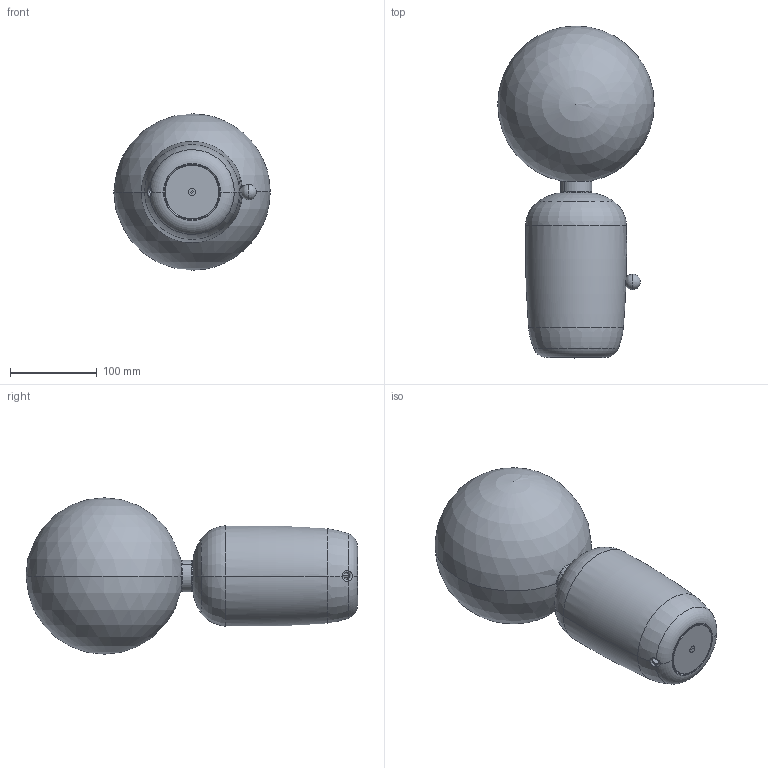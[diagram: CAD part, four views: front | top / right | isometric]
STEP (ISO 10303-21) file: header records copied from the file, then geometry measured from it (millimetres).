
FILE_DESCRIPTION (( 'STEP AP214' ), '1' );
FILE_NAME ('ABALLS M PEQUEÑA.STEP', '2014-08-28T08:55:24', ( '' ), ( '' ), 'SwSTEP 2.0', 'SolidWorks 2010', '' );
FILE_SCHEMA (( 'AUTOMOTIVE_DESIGN' ));
Length unit declared in the file: millimetre
Products named in the file (8): 067600500103 - DIFUSOR CRISTAL OPAL BLANCO MATE DIAM.180 TALADRO 30MM; 052700200000 - CERÁM DIAM.116X190MM; 014200200119 - REGUL EMBELLECEDOR  DIAM.20MM; 021603400000 - TORNILLO DIN7991 M4x18 INOX; 053700100006 - FIELTRO DIAM.62 NEGRO; ABALLS M PEQUEÑA; 061700100119 - CILINDRO CUELLO DIAM.36X15MM; 026700600114 - DISCO DIAM.62X2MM NIQUEL
Assembly tree (7 placements, depth 2):
  ABALLS M PEQUEÑA
    053700100006 - FIELTRO DIAM.62 NEGRO
    026700600114 - DISCO DIAM.62X2MM NIQUEL
    052700200000 - CERÁM DIAM.116X190MM
    021603400000 - TORNILLO DIN7991 M4x18 INOX
    014200200119 - REGUL EMBELLECEDOR  DIAM.20MM
    067600500103 - DIFUSOR CRISTAL OPAL BLANCO MATE DIAM.180 TALADRO 30MM
    061700100119 - CILINDRO CUELLO DIAM.36X15MM
Bounding box: 180 x 382 x 180 mm (x, y, z)
Volume: 591465.5 mm3; surface area: 355286.4 mm2
Topology: 7 solids, 7 shells, 125 faces, 311 edges, 198 vertices
Faces by surface type: cylinder 55, plane 30, torus 22, cone 8, sphere 6, bspline 4
Entity records: 7774 total; most frequent: CARTESIAN_POINT 4281, DIRECTION 705, ORIENTED_EDGE 594, AXIS2_PLACEMENT_3D 305, EDGE_CURVE 297, VERTEX_POINT 190, CIRCLE 174, EDGE_LOOP 153
